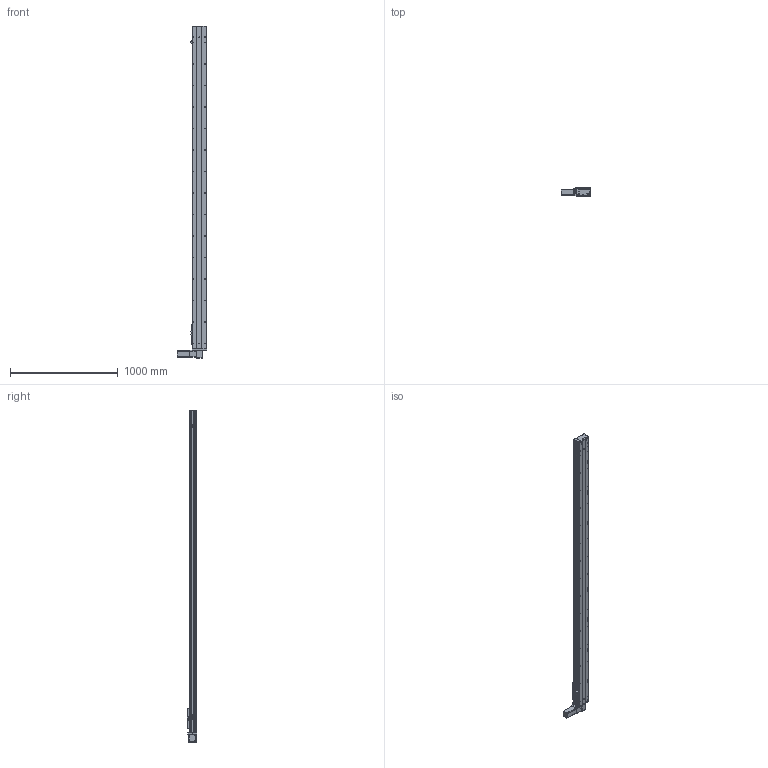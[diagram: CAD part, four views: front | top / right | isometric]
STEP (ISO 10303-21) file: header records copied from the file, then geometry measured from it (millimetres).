
FILE_DESCRIPTION (( 'STEP AP203' ), '1' );
FILE_NAME ('Y135CB-D90-S2700-BD-P400W.STEP', '2020-02-19T06:19:24', ( '微软用户' ), ( '微软中国' ), 'SwSTEP 2.0', 'SolidWorks 2017', '' );
FILE_SCHEMA (( 'CONFIG_CONTROL_DESIGN' ));
Length unit declared in the file: millimetre
Products named in the file (16): Y100-135俋离換覜ん--; 135CB---遴掛极.-; Y135C-陔俋离換覜結え-; 35CB---喘謫眊楊擘啣; 5C--俋欶; 0B-埴倛裔啣; C-雄赽釱--; 0B-源倛裔啣; Y10B--々湍喘謫眊--666; san松下电机400不带刹车----; 0B-薊粣ん眊; Y135CB-D90-S2700-BD-P400W; 5CB --掛极耜裔啣-; C-詩湍揤踡え-陔; 135CB--詩湍-CE; Y135CB-耜裔
Assembly tree (19 placements, depth 2):
  Y135CB-D90-S2700-BD-P400W
    Y135CB-耜裔
    135CB---遴掛极.-
    35CB---喘謫眊楊擘啣
    0B-埴倛裔啣
    0B-源倛裔啣
    san松下电机400不带刹车----
    5CB --掛极耜裔啣-  x2
    C-詩湍揤踡え-陔  x2
    135CB--詩湍-CE
    Y100-135俋离換覜ん--  x3
    Y135C-陔俋离換覜結え-
    5C--俋欶
    C-雄赽釱--
    Y10B--々湍喘謫眊--666
    0B-薊粣ん眊
Bounding box: 272 x 91 x 3088 mm (x, y, z)
Volume: 8801427.6 mm3; surface area: 3444837.1 mm2
Topology: 19 solids, 19 shells, 891 faces, 2428 edges, 1608 vertices
Faces by surface type: cylinder 460, plane 415, cone 16
Entity records: 27824 total; most frequent: CARTESIAN_POINT 4643, DIRECTION 4640, ORIENTED_EDGE 4332, EDGE_CURVE 2166, AXIS2_PLACEMENT_3D 1713, VERTEX_POINT 1436, VECTOR 1214, LINE 1214
